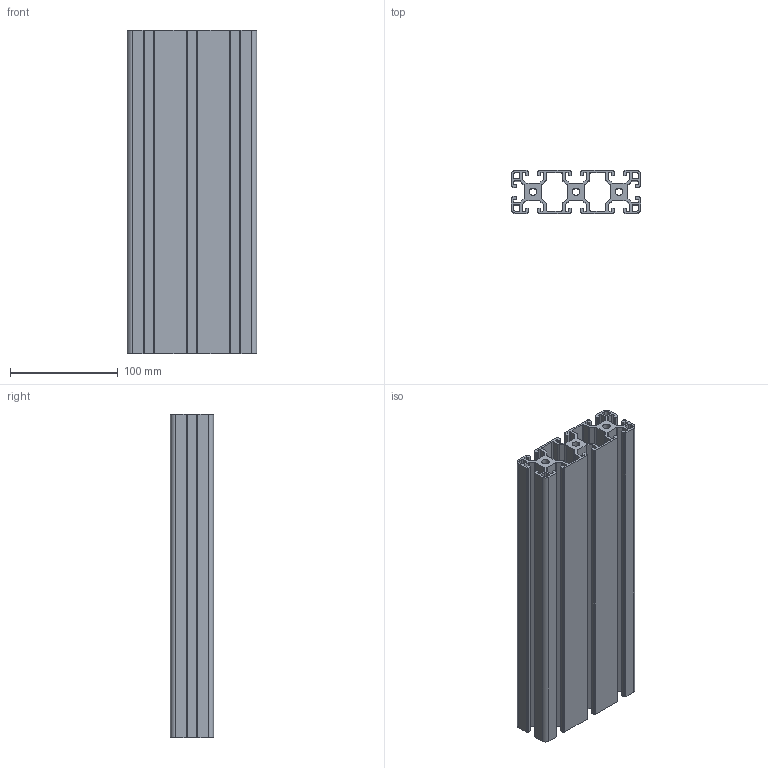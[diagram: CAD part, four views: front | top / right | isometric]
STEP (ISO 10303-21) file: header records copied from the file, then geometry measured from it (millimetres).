
FILE_DESCRIPTION (( 'STEP AP203' ), '1' );
FILE_NAME ('25-CE-40120-8.STEP', '2015-07-07T03:19:10', ( '' ), ( '' ), 'SwSTEP 2.0', 'SolidWorks 2013', '' );
FILE_SCHEMA (( 'CONFIG_CONTROL_DESIGN' ));
Length unit declared in the file: millimetre
Products named in the file (1): 25-CE-40120-8
Bounding box: 120 x 40 x 300 mm (x, y, z)
Volume: 481993.7 mm3; surface area: 328858.1 mm2
Topology: 1 solids, 1 shells, 383 faces, 1143 edges, 762 vertices
Faces by surface type: cylinder 193, plane 190
Entity records: 13096 total; most frequent: DIRECTION 2297, CARTESIAN_POINT 2289, ORIENTED_EDGE 2286, EDGE_CURVE 1143, AXIS2_PLACEMENT_3D 770, VERTEX_POINT 762, VECTOR 757, LINE 757
